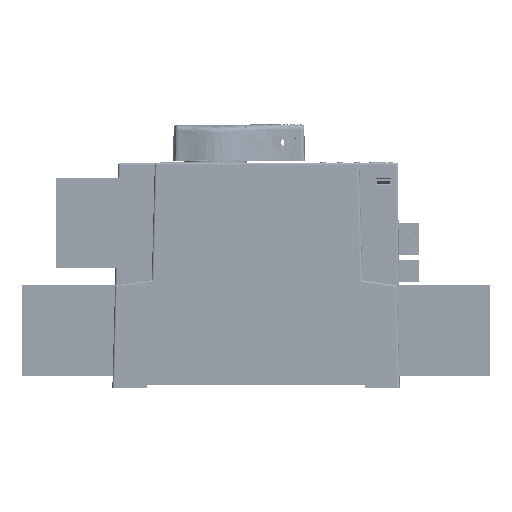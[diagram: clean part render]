
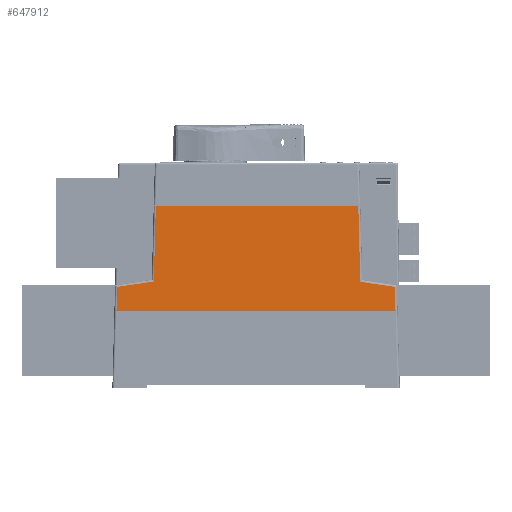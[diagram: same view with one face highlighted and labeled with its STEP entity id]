
A CAD part, left-side view. The second image highlights one B-rep face of the part: STEP entity #647912.
In plain terms, the highlighted planar face has unit normal (-1, 0, 0.018).
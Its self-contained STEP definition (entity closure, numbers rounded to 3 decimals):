
#9299 = CARTESIAN_POINT ( 'NONE',  ( -189.192, 65.288, 46.277 ) ) ;
#17930 = ORIENTED_EDGE ( 'NONE', *, *, #292281, .F. ) ;
#26737 = VERTEX_POINT ( 'NONE', #124275 ) ;
#50232 = VECTOR ( 'NONE', #813567, 1000. ) ;
#91930 = PLANE ( 'NONE',  #223358 ) ;
#104428 = DIRECTION ( 'NONE',  ( 0., -1., 0. ) ) ;
#109931 = EDGE_CURVE ( 'NONE', #359794, #1064060, #813555, .T. ) ;
#124275 = CARTESIAN_POINT ( 'NONE',  ( -189.389, -65.584, 35. ) ) ;
#127864 = EDGE_CURVE ( 'NONE', #515154, #986417, #520241, .T. ) ;
#145112 = CARTESIAN_POINT ( 'NONE',  ( -188.525, -48.085, 84.5 ) ) ;
#146074 = DIRECTION ( 'NONE',  ( 0.003, -0.989, 0.148 ) ) ;
#163204 = CARTESIAN_POINT ( 'NONE',  ( -188.15, -65., 106.003 ) ) ;
#195809 = CARTESIAN_POINT ( 'NONE',  ( -189.192, -65.288, 46.277 ) ) ;
#201313 = LINE ( 'NONE', #683114, #814445 ) ;
#211059 = DIRECTION ( 'NONE',  ( -0.017, -0.026, -1. ) ) ;
#213339 = CARTESIAN_POINT ( 'NONE',  ( -188.525, -48.085, 84.5 ) ) ;
#223358 = AXIS2_PLACEMENT_3D ( 'NONE', #163204, #923419, #507708 ) ;
#227224 = LINE ( 'NONE', #145112, #984130 ) ;
#232509 = CARTESIAN_POINT ( 'NONE',  ( -189.15, -49.022, 48.708 ) ) ;
#238622 = LINE ( 'NONE', #659828, #289789 ) ;
#239225 = VECTOR ( 'NONE', #146074, 1000. ) ;
#252600 = CARTESIAN_POINT ( 'NONE',  ( -189.147, 48.022, 48.858 ) ) ;
#272003 = VECTOR ( 'NONE', #1069443, 1000. ) ;
#281444 = CARTESIAN_POINT ( 'NONE',  ( -188.091, 63.636, 109.371 ) ) ;
#289789 = VECTOR ( 'NONE', #336808, 1000. ) ;
#292281 = EDGE_CURVE ( 'NONE', #986417, #634731, #227224, .T. ) ;
#316294 = VERTEX_POINT ( 'NONE', #195809 ) ;
#333388 = EDGE_CURVE ( 'NONE', #26737, #316294, #381602, .T. ) ;
#335150 = ORIENTED_EDGE ( 'NONE', *, *, #109931, .F. ) ;
#336808 = DIRECTION ( 'NONE',  ( 0., 1., 0. ) ) ;
#359794 = VERTEX_POINT ( 'NONE', #9299 ) ;
#365555 = EDGE_CURVE ( 'NONE', #634731, #316294, #812486, .T. ) ;
#381602 = LINE ( 'NONE', #1070546, #50232 ) ;
#401471 = EDGE_CURVE ( 'NONE', #1064060, #515154, #201313, .T. ) ;
#411757 = EDGE_LOOP ( 'NONE', ( #335150, #434379, #431663, #551672, #420103, #17930, #971536, #754958 ) ) ;
#420103 = ORIENTED_EDGE ( 'NONE', *, *, #365555, .F. ) ;
#431663 = ORIENTED_EDGE ( 'NONE', *, *, #477572, .F. ) ;
#434379 = ORIENTED_EDGE ( 'NONE', *, *, #978181, .T. ) ;
#477572 = EDGE_CURVE ( 'NONE', #26737, #901542, #238622, .T. ) ;
#507708 = DIRECTION ( 'NONE',  ( -0.017, 0., -1. ) ) ;
#515154 = VERTEX_POINT ( 'NONE', #729237 ) ;
#520241 = LINE ( 'NONE', #853970, #814142 ) ;
#551672 = ORIENTED_EDGE ( 'NONE', *, *, #333388, .T. ) ;
#615140 = DIRECTION ( 'NONE',  ( -0.017, 0.026, -1. ) ) ;
#634731 = VERTEX_POINT ( 'NONE', #944271 ) ;
#647912 = ADVANCED_FACE ( 'NONE', ( #912671 ), #91930, .F. ) ;
#659828 = CARTESIAN_POINT ( 'NONE',  ( -189.389, -65., 35. ) ) ;
#683114 = CARTESIAN_POINT ( 'NONE',  ( -189.147, 48.022, 48.858 ) ) ;
#729237 = CARTESIAN_POINT ( 'NONE',  ( -188.525, 47.089, 84.5 ) ) ;
#754958 = ORIENTED_EDGE ( 'NONE', *, *, #401471, .F. ) ;
#812486 = LINE ( 'NONE', #232509, #272003 ) ;
#813555 = LINE ( 'NONE', #977638, #239225 ) ;
#813567 = DIRECTION ( 'NONE',  ( 0.017, 0.026, 1. ) ) ;
#814142 = VECTOR ( 'NONE', #104428, 1000. ) ;
#814445 = VECTOR ( 'NONE', #852587, 1000. ) ;
#852587 = DIRECTION ( 'NONE',  ( 0.017, -0.026, 1. ) ) ;
#853970 = CARTESIAN_POINT ( 'NONE',  ( -188.525, 89.402, 84.5 ) ) ;
#901542 = VERTEX_POINT ( 'NONE', #974955 ) ;
#912671 = FACE_OUTER_BOUND ( 'NONE', #411757, .T. ) ;
#923419 = DIRECTION ( 'NONE',  ( 1., 0., -0.017 ) ) ;
#924480 = VECTOR ( 'NONE', #615140, 1000. ) ;
#944271 = CARTESIAN_POINT ( 'NONE',  ( -189.15, -49.022, 48.708 ) ) ;
#971536 = ORIENTED_EDGE ( 'NONE', *, *, #127864, .F. ) ;
#974955 = CARTESIAN_POINT ( 'NONE',  ( -189.389, 65.584, 35. ) ) ;
#977638 = CARTESIAN_POINT ( 'NONE',  ( -189.186, 62.778, 46.652 ) ) ;
#978181 = EDGE_CURVE ( 'NONE', #359794, #901542, #1030931, .T. ) ;
#984130 = VECTOR ( 'NONE', #211059, 1000. ) ;
#986417 = VERTEX_POINT ( 'NONE', #213339 ) ;
#1030931 = LINE ( 'NONE', #281444, #924480 ) ;
#1064060 = VERTEX_POINT ( 'NONE', #252600 ) ;
#1069443 = DIRECTION ( 'NONE',  ( -0.003, -0.989, -0.148 ) ) ;
#1070546 = CARTESIAN_POINT ( 'NONE',  ( -188.15, -63.725, 105.97 ) ) ;
